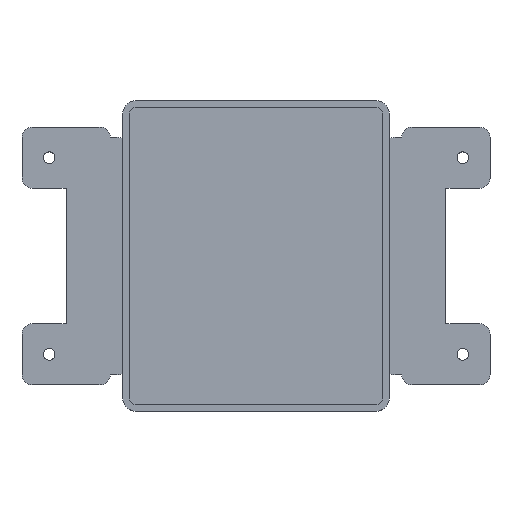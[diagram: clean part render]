
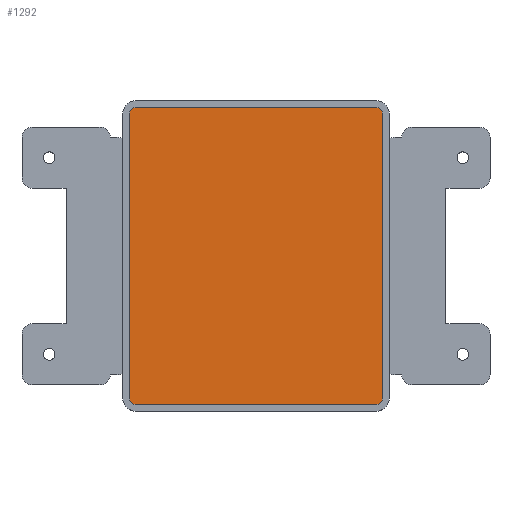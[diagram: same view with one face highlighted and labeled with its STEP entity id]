
A CAD part, top view. The second image highlights one B-rep face of the part: STEP entity #1292.
In plain terms, the highlighted planar face has unit normal (0, 0, 1).
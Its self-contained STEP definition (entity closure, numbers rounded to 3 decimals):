
#980 = VERTEX_POINT('',#981);
#981 = CARTESIAN_POINT('',(-37.3,-41.8,4.));
#987 = EDGE_CURVE('',#980,#988,#990,.T.);
#988 = VERTEX_POINT('',#989);
#989 = CARTESIAN_POINT('',(-35.3,-43.8,4.));
#990 = CIRCLE('',#991,2.);
#991 = AXIS2_PLACEMENT_3D('',#992,#993,#994);
#992 = CARTESIAN_POINT('',(-35.3,-41.8,4.));
#993 = DIRECTION('',(0.,0.,1.));
#994 = DIRECTION('',(-1.,0.,0.));
#1011 = EDGE_CURVE('',#1012,#988,#1014,.T.);
#1012 = VERTEX_POINT('',#1013);
#1013 = CARTESIAN_POINT('',(35.3,-43.8,4.));
#1014 = LINE('',#1015,#1016);
#1015 = CARTESIAN_POINT('',(-38.3,-43.8,4.));
#1016 = VECTOR('',#1017,1.);
#1017 = DIRECTION('',(-1.,0.,0.));
#1036 = VERTEX_POINT('',#1037);
#1037 = CARTESIAN_POINT('',(37.3,-41.8,4.));
#1043 = EDGE_CURVE('',#1012,#1036,#1044,.T.);
#1044 = CIRCLE('',#1045,2.);
#1045 = AXIS2_PLACEMENT_3D('',#1046,#1047,#1048);
#1046 = CARTESIAN_POINT('',(35.3,-41.8,4.));
#1047 = DIRECTION('',(0.,0.,1.));
#1048 = DIRECTION('',(1.,0.,0.));
#1062 = EDGE_CURVE('',#1036,#1063,#1065,.T.);
#1063 = VERTEX_POINT('',#1064);
#1064 = CARTESIAN_POINT('',(37.3,41.8,4.));
#1065 = LINE('',#1066,#1067);
#1066 = CARTESIAN_POINT('',(37.3,-44.8,4.));
#1067 = VECTOR('',#1068,1.);
#1068 = DIRECTION('',(0.,1.,0.));
#1085 = EDGE_CURVE('',#1063,#1086,#1088,.T.);
#1086 = VERTEX_POINT('',#1087);
#1087 = CARTESIAN_POINT('',(35.3,43.8,4.));
#1088 = CIRCLE('',#1089,2.);
#1089 = AXIS2_PLACEMENT_3D('',#1090,#1091,#1092);
#1090 = CARTESIAN_POINT('',(35.3,41.8,4.));
#1091 = DIRECTION('',(0.,0.,1.));
#1092 = DIRECTION('',(1.,0.,0.));
#1109 = EDGE_CURVE('',#1086,#1110,#1112,.T.);
#1110 = VERTEX_POINT('',#1111);
#1111 = CARTESIAN_POINT('',(-35.3,43.8,4.));
#1112 = LINE('',#1113,#1114);
#1113 = CARTESIAN_POINT('',(-38.3,43.8,4.));
#1114 = VECTOR('',#1115,1.);
#1115 = DIRECTION('',(-1.,0.,0.));
#1134 = VERTEX_POINT('',#1135);
#1135 = CARTESIAN_POINT('',(-37.3,41.8,4.));
#1141 = EDGE_CURVE('',#1110,#1134,#1142,.T.);
#1142 = CIRCLE('',#1143,2.);
#1143 = AXIS2_PLACEMENT_3D('',#1144,#1145,#1146);
#1144 = CARTESIAN_POINT('',(-35.3,41.8,4.));
#1145 = DIRECTION('',(0.,0.,1.));
#1146 = DIRECTION('',(-1.,0.,0.));
#1160 = EDGE_CURVE('',#980,#1134,#1161,.T.);
#1161 = LINE('',#1162,#1163);
#1162 = CARTESIAN_POINT('',(-37.3,-44.8,4.));
#1163 = VECTOR('',#1164,1.);
#1164 = DIRECTION('',(0.,1.,0.));
#1292 = ADVANCED_FACE('',(#1293),#1303,.T.);
#1293 = FACE_BOUND('',#1294,.T.);
#1294 = EDGE_LOOP('',(#1295,#1296,#1297,#1298,#1299,#1300,#1301,#1302));
#1295 = ORIENTED_EDGE('',*,*,#1160,.F.);
#1296 = ORIENTED_EDGE('',*,*,#987,.T.);
#1297 = ORIENTED_EDGE('',*,*,#1011,.F.);
#1298 = ORIENTED_EDGE('',*,*,#1043,.T.);
#1299 = ORIENTED_EDGE('',*,*,#1062,.T.);
#1300 = ORIENTED_EDGE('',*,*,#1085,.T.);
#1301 = ORIENTED_EDGE('',*,*,#1109,.T.);
#1302 = ORIENTED_EDGE('',*,*,#1141,.T.);
#1303 = PLANE('',#1304);
#1304 = AXIS2_PLACEMENT_3D('',#1305,#1306,#1307);
#1305 = CARTESIAN_POINT('',(-39.3,-45.8,4.));
#1306 = DIRECTION('',(0.,0.,1.));
#1307 = DIRECTION('',(1.,0.,0.));
